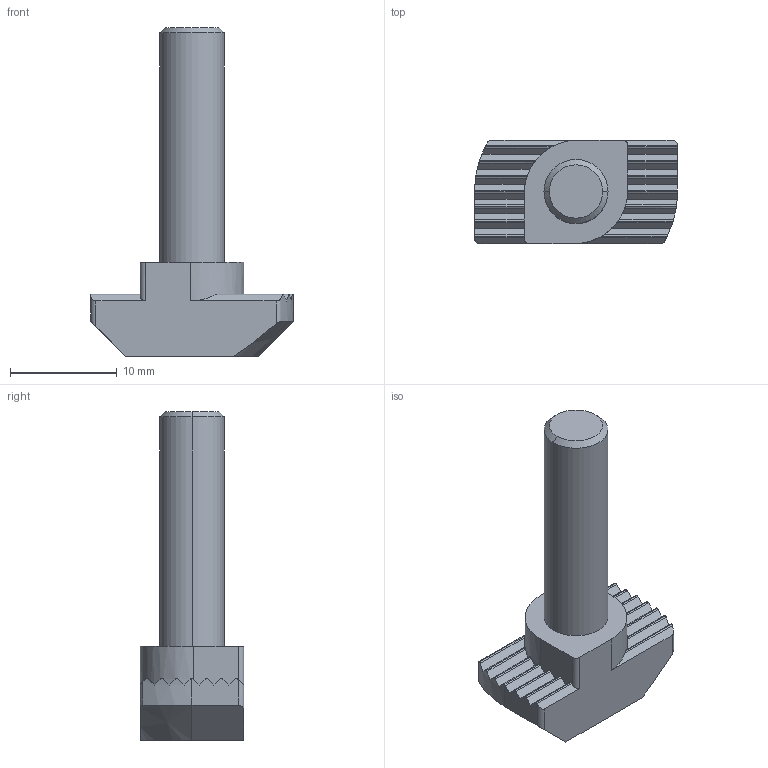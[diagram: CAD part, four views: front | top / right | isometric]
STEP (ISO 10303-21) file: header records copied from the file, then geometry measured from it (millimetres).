
FILE_DESCRIPTION(('STEP AP214'),'1');
FILE_NAME('fath_096hk1030m0625.stp','2017-04-24T02:19:30',('TraceParts'),('TraceParts S.A.'),'Spatial InterOp 3D',' ',' ');
FILE_SCHEMA(('automotive_design'));
Length unit declared in the file: millimetre
Products named in the file (1): fath_096hk1030m0625
Bounding box: 19 x 9.7 x 30.81 mm (x, y, z)
Volume: 1779.4 mm3; surface area: 1149.2 mm2
Topology: 1 solids, 1 shells, 83 faces, 236 edges, 156 vertices
Faces by surface type: cylinder 40, plane 39, cone 4
Entity records: 3466 total; most frequent: CARTESIAN_POINT 758, ORIENTED_EDGE 472, DIRECTION 372, EDGE_CURVE 236, VERTEX_POINT 156, AXIS2_PLACEMENT_3D 126, LINE 120, VECTOR 120
